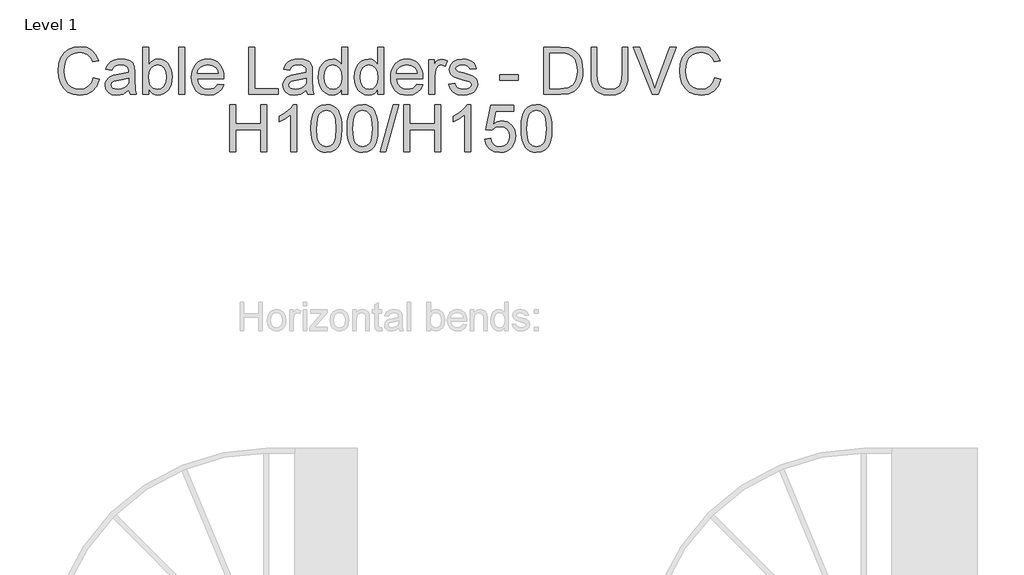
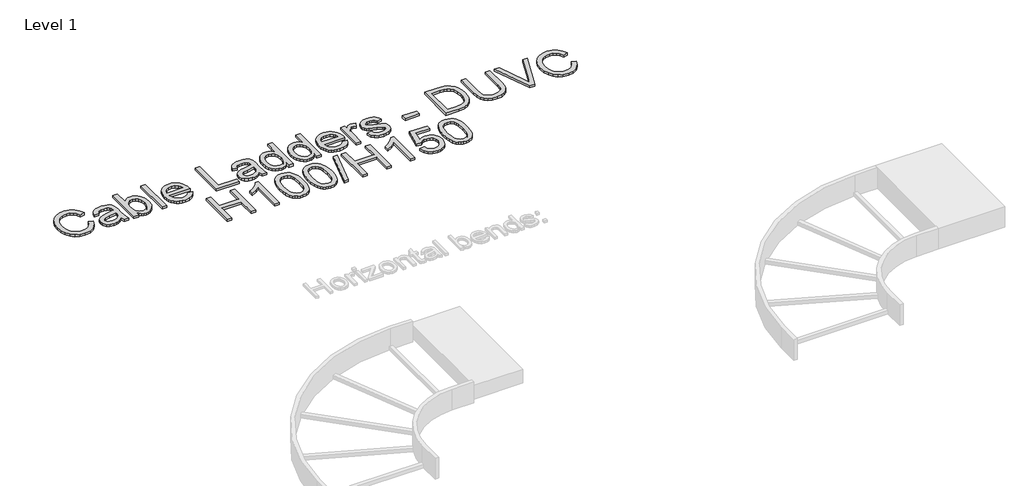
# One storey, part 102 of 106: 1 proxy.
"""IFC4 building model written with IfcOpenShell, lengths in millimetres."""

from ifc_helpers import new_model, si_unit, origin, origin_with_axes, place, context, project, spatial, polyline, outline, extrude, element, save

model = new_model("IFC4")

# Units and contexts
model_context = context("Model", 3, world=origin())
ifc_project = project(units=[si_unit("LENGTHUNIT", "METRE", prefix="MILLI")], contexts=[model_context])

# Site, building, storey
site = spatial("IfcSite", under=ifc_project)
building = spatial("IfcBuilding", under=site)
storey = spatial("IfcBuildingStorey", under=building, Name="Level 1", Elevation=0.0)

# Proxy
placement = place(None, origin())
element("IfcBuildingElementProxy", 1, Name="250mm Arial 3", ObjectType="250mm Arial 3", at=placement, inside=storey, context=model_context, shape_type="SweptSolid", body=[
    extrude(outline(polyline([(141884.0078281, 71620.7828675), (141915.4004251, 71612.6894636), (141900.9150715, 71576.1081977), (141878.1830299, 71549.3831036), (141848.3232746, 71533.0353474), (141812.4547801, 71527.5860954), (141776.0421268, 71531.7094394), (141747.1250691, 71544.0794715), (141724.9601789, 71564.266996), (141708.8040279, 71591.8428172), (141698.940192, 71624.262418), (141695.6522466, 71658.9812813), (141699.3693876, 71695.6008682), (141710.5208106, 71727.2233914), (141728.5240357, 71752.8448395), (141752.7965832, 71771.4612013), (141781.5833493, 71782.7965653), (141813.1292304, 71786.57502), (141847.5491896, 71781.6852551), (141876.0063948, 71767.0159606), (141897.6117978, 71743.4715129), (141911.4763505, 71711.9562886), (141880.0837535, 71704.4760214), (141869.2005778, 71727.3690114), (141854.3320139, 71743.072974), (141835.2941206, 71752.1550608), (141811.9029571, 71755.182423), (141784.9402725, 71751.8254998), (141762.7907107, 71741.7547302), (141745.9831021, 71726.0277749), (141735.0462769, 71705.7022947), (141729.0452019, 71682.7249984), (141727.0448435, 71659.042595), (141729.4130839, 71630.041231), (141736.5178049, 71604.9639417), (141748.6272539, 71584.768753), (141766.0096782, 71570.413691), (141786.8486604, 71561.837442), (141809.3277831, 71558.9786923), (141835.5317111, 71562.8721101), (141857.3670403, 71574.5523634), (141873.8527522, 71593.896825), (141884.0078281, 71620.7828675)])), origin_with_axes(), (0.0, 0.0, 1.0), 15.0),
    extrude(outline(polyline([(142072.3634097, 71555.0546177), (142057.3645542, 71542.1940763), (142041.9211746, 71533.7787756), (142025.6807173, 71529.1342654), (142008.2906289, 71527.5860954), (141982.0560441, 71531.3109006), (141962.7039183, 71542.4853162), (141950.7707461, 71559.4538732), (141946.793022, 71580.5611027), (141948.2952068, 71593.5749282), (141952.8017612, 71605.3931373), (141968.5900302, 71623.4193551), (141990.5709794, 71633.720051), (142017.7329334, 71638.4412032), (142072.1794687, 71649.2324084), (142072.3634097, 71656.2221663), (142070.202103, 71670.232339), (142063.7181828, 71679.398732), (142049.2175008, 71686.2045489), (142029.0146479, 71688.4731546), (142010.3139798, 71686.9633056), (141997.254169, 71682.4337585), (141988.348359, 71674.0567789), (141982.1096935, 71661.0046323), (141950.7170966, 71664.9287069), (141956.1663487, 71682.0965333), (141964.2980736, 71695.5855398), (141975.871028, 71705.9015641), (141991.6439686, 71713.5504439), (142010.9347807, 71718.2869246), (142033.0613499, 71719.8657515), (142054.2835425, 71718.4708656), (142071.1064795, 71714.2862079), (142083.7907442, 71707.993893), (142092.5969194, 71700.2760353), (142102.223165, 71678.9695364), (142103.7560066, 71651.5010141), (142103.7560066, 71612.4442089), (142105.3501619, 71557.9057031), (142111.6041558, 71531.51017), (142080.2115589, 71531.51017), (142072.3634097, 71555.0546177)]), holes=[polyline([(142072.3634097, 71617.8398115), (142021.7183217, 71608.213566), (141994.7096519, 71603.1245317), (141982.4775755, 71594.8471868), (141978.1856189, 71582.7683946), (141980.5232024, 71573.433389), (141987.535953, 71565.7845092), (141999.0705863, 71560.6801465), (142014.9738184, 71558.9786923), (142031.8350765, 71560.8564233), (142046.7342973, 71566.4896164), (142058.8130895, 71574.7899539), (142067.2130617, 71584.6691183), (142070.9378669, 71594.8471868), (142072.1794687, 71608.94933), (142072.3634097, 71617.8398115)])]), origin_with_axes(), (0.0, 0.0, 1.0), 15.0),
    extrude(outline(polyline([(142178.3134243, 71531.51017), (142146.9208274, 71531.51017), (142146.9208274, 71782.6509454), (142178.3134243, 71782.6509454), (142178.3134243, 71689.5154869), (142188.6371128, 71702.7937277), (142200.2943735, 71712.2781854), (142213.2852065, 71717.96886), (142227.6096116, 71719.8657515), (142243.781091, 71718.1566331), (142259.0635222, 71713.0292778), (142272.5831856, 71704.8055823), (142283.4663612, 71693.8074435), (142298.4575525, 71663.9170314), (142303.883812, 71626.4850384), (142298.2659473, 71584.5771478), (142291.2436165, 71567.6469118), (142281.4123534, 71553.3991487), (142269.6113888, 71542.1059379), (142256.6799535, 71534.0393587), (142242.6180474, 71529.1994112), (142227.4256706, 71527.5860954), (142212.6299167, 71529.6669279), (142199.5126243, 71535.9094255), (142188.0737935, 71546.3135882), (142178.3134243, 71560.8794159), (142178.3134243, 71531.51017)]), holes=[polyline([(142178.3134243, 71625.0135104), (142180.4594026, 71598.8325751), (142186.8973375, 71581.1129257), (142203.3447284, 71564.5122506), (142224.7278693, 71558.9786923), (142242.8460576, 71563.0560511), (142258.3277582, 71575.2881274), (142268.9503509, 71595.5982792), (142272.4912151, 71623.9098644), (142269.0959708, 71652.6353169), (142258.9102381, 71672.7155425), (142243.9113826, 71684.5337516), (142226.07677, 71688.4731546), (142207.9585817, 71684.3957958), (142192.4768811, 71672.1637195), (142181.8542885, 71652.2214496), (142178.3134243, 71625.0135104)])]), origin_with_axes(), (0.0, 0.0, 1.0), 15.0),
    extrude(outline(polyline([(142339.2004835, 71531.51017), (142339.2004835, 71782.6509454), (142370.5930804, 71782.6509454), (142370.5930804, 71531.51017), (142339.2004835, 71531.51017)])), origin_with_axes(), (0.0, 0.0, 1.0), 15.0),
    extrude(outline(polyline([(142546.8085561, 71586.4472146), (142577.5880164, 71582.52314), (142566.4979071, 71559.3312459), (142548.8012503, 71541.9948068), (142524.8965848, 71531.1882732), (142495.1824495, 71527.5860954), (142475.7038642, 71529.1400136), (142458.3482647, 71533.8017682), (142443.1156508, 71541.5713593), (142430.0060227, 71552.4487869), (142419.4639042, 71566.1313146), (142411.9338196, 71582.3162064), (142407.4157689, 71601.0034621), (142405.909752, 71622.1930818), (142407.4310973, 71644.101221), (142411.9951333, 71663.4111937), (142419.60186, 71680.1229997), (142430.2512773, 71694.2366392), (142443.3264166, 71705.4493758), (142458.210309, 71713.4584734), (142474.9029545, 71718.263932), (142493.4043532, 71719.8657515), (142511.3098596, 71718.2677641), (142527.5024156, 71713.4738018), (142541.982021, 71705.4838648), (142554.7486759, 71694.2979528), (142565.170083, 71680.2149702), (142572.6139452, 71663.533821), (142577.0802626, 71644.2545052), (142578.569035, 71622.3770228), (142578.385094, 71613.9157369), (142437.3023489, 71613.9157369), (142442.7362725, 71590.4172745), (142455.3592235, 71573.1421491), (142473.5770465, 71562.5195565), (142495.7955861, 71558.9786923), (142512.5035601, 71560.6188328), (142526.5750464, 71565.5392545), (142538.0100451, 71574.0465257), (142546.8085561, 71586.4472146)]), holes=[polyline([(142437.3023489, 71645.3083338), (142547.1764381, 71645.3083338), (142542.9304668, 71661.8936804), (142534.6071366, 71673.7578748), (142516.3050074, 71684.7943346), (142493.2817258, 71688.4731546), (142472.1208469, 71685.5377628), (142454.6234595, 71676.7315876), (142442.460361, 71663.0049906), (142437.3023489, 71645.3083338)])]), origin_with_axes(), (0.0, 0.0, 1.0), 15.0),
    extrude(outline(polyline([(142711.987572, 71531.51017), (142711.987572, 71782.6509454), (142743.3801689, 71782.6509454), (142743.3801689, 71562.9027669), (142868.9505566, 71562.9027669), (142868.9505566, 71531.51017), (142711.987572, 71531.51017)])), origin_with_axes(), (0.0, 0.0, 1.0), 15.0),
    extrude(outline(polyline([(143018.0653919, 71555.0546177), (143003.0665364, 71542.1940763), (142987.6231568, 71533.7787756), (142971.3826996, 71529.1342654), (142953.9926111, 71527.5860954), (142927.7580263, 71531.3109006), (142908.4059006, 71542.4853162), (142896.4727283, 71559.4538732), (142892.4950043, 71580.5611027), (142893.9971891, 71593.5749282), (142898.5037435, 71605.3931373), (142914.2920125, 71623.4193551), (142936.2729617, 71633.720051), (142963.4349157, 71638.4412032), (143017.881451, 71649.2324084), (143018.0653919, 71656.2221663), (143015.9040852, 71670.232339), (143009.4201651, 71679.398732), (142994.9194831, 71686.2045489), (142974.7166302, 71688.4731546), (142956.0159621, 71686.9633056), (142942.9561513, 71682.4337585), (142934.0503413, 71674.0567789), (142927.8116758, 71661.0046323), (142896.4190789, 71664.9287069), (142901.8683309, 71682.0965333), (142910.0000559, 71695.5855398), (142921.5730103, 71705.9015641), (142937.3459508, 71713.5504439), (142956.636763, 71718.2869246), (142978.7633321, 71719.8657515), (142999.9855247, 71718.4708656), (143016.8084618, 71714.2862079), (143029.4927264, 71707.993893), (143038.2989017, 71700.2760353), (143047.9251472, 71678.9695364), (143049.4579889, 71651.5010141), (143049.4579889, 71612.4442089), (143051.0521442, 71557.9057031), (143057.3061381, 71531.51017), (143025.9135412, 71531.51017), (143018.0653919, 71555.0546177)]), holes=[polyline([(143018.0653919, 71617.8398115), (142967.4203039, 71608.213566), (142940.4116341, 71603.1245317), (142928.1795578, 71594.8471868), (142923.8876012, 71582.7683946), (142926.2251847, 71573.433389), (142933.2379352, 71565.7845092), (142944.7725686, 71560.6801465), (142960.6758007, 71558.9786923), (142977.5370588, 71560.8564233), (142992.4362796, 71566.4896164), (143004.5150718, 71574.7899539), (143012.915044, 71584.6691183), (143016.6398492, 71594.8471868), (143017.881451, 71608.94933), (143018.0653919, 71617.8398115)])]), origin_with_axes(), (0.0, 0.0, 1.0), 15.0),
    extrude(outline(polyline([(143206.4209735, 71531.51017), (143206.4209735, 71561.1246706), (143197.0284863, 71546.4515439), (143185.6509692, 71535.9707392), (143172.2884221, 71529.6822563), (143156.9408451, 71527.5860954), (143136.6460217, 71530.6211218), (143118.067981, 71539.7262012), (143102.3410257, 71554.2652042), (143090.5994587, 71573.6020016), (143083.287804, 71596.9548441), (143080.8505858, 71623.5419824), (143083.0961988, 71649.7995598), (143089.8330378, 71673.5126201), (143101.0534387, 71693.3322626), (143116.7497372, 71707.9095867), (143135.7339809, 71716.8767103), (143156.8182178, 71719.8657515), (143172.1772911, 71717.7274374), (143185.7582681, 71711.3124951), (143197.2699088, 71701.479316), (143206.4209735, 71689.0862912), (143206.4209735, 71782.6509454), (143237.8135704, 71782.6509454), (143237.8135704, 71531.51017), (143206.4209735, 71531.51017)]), holes=[polyline([(143112.2431827, 71623.6646098), (143115.7840469, 71595.2687183), (143126.4066395, 71575.0735296), (143141.8423549, 71563.0024016), (143159.8225874, 71558.9786923), (143177.7951557, 71562.8184606), (143192.8399965, 71574.3377656), (143203.0257292, 71593.751205), (143206.4209735, 71621.2733768), (143202.9644156, 71651.3630583), (143192.5947418, 71672.2250331), (143177.1666907, 71684.4111242), (143158.5350004, 71688.4731546), (143140.3708269, 71684.5720726), (143125.4869345, 71672.8688266), (143115.5541207, 71652.7656084), (143112.2431827, 71623.6646098)])]), origin_with_axes(), (0.0, 0.0, 1.0), 15.0),
    extrude(outline(polyline([(143398.7006296, 71531.51017), (143398.7006296, 71561.1246706), (143389.3081424, 71546.4515439), (143377.9306253, 71535.9707392), (143364.5680783, 71529.6822563), (143349.2205013, 71527.5860954), (143328.9256779, 71530.6211218), (143310.3476371, 71539.7262012), (143294.6206818, 71554.2652042), (143282.8791148, 71573.6020016), (143275.5674602, 71596.9548441), (143273.1302419, 71623.5419824), (143275.3758549, 71649.7995598), (143282.112694, 71673.5126201), (143293.3330948, 71693.3322626), (143309.0293933, 71707.9095867), (143328.0136371, 71716.8767103), (143349.0978739, 71719.8657515), (143364.4569472, 71717.7274374), (143378.0379242, 71711.3124951), (143389.549565, 71701.479316), (143398.7006296, 71689.0862912), (143398.7006296, 71782.6509454), (143430.0932265, 71782.6509454), (143430.0932265, 71531.51017), (143398.7006296, 71531.51017)]), holes=[polyline([(143304.5228389, 71623.6646098), (143308.0637031, 71595.2687183), (143318.6862957, 71575.0735296), (143334.1220111, 71563.0024016), (143352.1022436, 71558.9786923), (143370.0748119, 71562.8184606), (143385.1196526, 71574.3377656), (143395.3053854, 71593.751205), (143398.7006296, 71621.2733768), (143395.2440717, 71651.3630583), (143384.874398, 71672.2250331), (143369.4463468, 71684.4111242), (143350.8146566, 71688.4731546), (143332.6504831, 71684.5720726), (143317.7665907, 71672.8688266), (143307.8337768, 71652.7656084), (143304.5228389, 71623.6646098)])]), origin_with_axes(), (0.0, 0.0, 1.0), 15.0),
    extrude(outline(polyline([(143606.3087022, 71586.4472146), (143637.0881625, 71582.52314), (143625.9980532, 71559.3312459), (143608.3013964, 71541.9948068), (143584.3967309, 71531.1882732), (143554.6825956, 71527.5860954), (143535.2040104, 71529.1400136), (143517.8484108, 71533.8017682), (143502.6157969, 71541.5713593), (143489.5061688, 71552.4487869), (143478.9640503, 71566.1313146), (143471.4339658, 71582.3162064), (143466.915915, 71601.0034621), (143465.4098981, 71622.1930818), (143466.9312434, 71644.101221), (143471.4952794, 71663.4111937), (143479.1020061, 71680.1229997), (143489.7514234, 71694.2366392), (143502.8265627, 71705.4493758), (143517.7104551, 71713.4584734), (143534.4031006, 71718.263932), (143552.9044993, 71719.8657515), (143570.8100058, 71718.2677641), (143587.0025617, 71713.4738018), (143601.4821671, 71705.4838648), (143614.248822, 71694.2979528), (143624.6702291, 71680.2149702), (143632.1140914, 71663.533821), (143636.5804087, 71644.2545052), (143638.0691812, 71622.3770228), (143637.8852402, 71613.9157369), (143496.802495, 71613.9157369), (143502.2364186, 71590.4172745), (143514.8593696, 71573.1421491), (143533.0771926, 71562.5195565), (143555.2957322, 71558.9786923), (143572.0037062, 71560.6188328), (143586.0751925, 71565.5392545), (143597.5101912, 71574.0465257), (143606.3087022, 71586.4472146)]), holes=[polyline([(143496.802495, 71645.3083338), (143606.6765842, 71645.3083338), (143602.4306129, 71661.8936804), (143594.1072827, 71673.7578748), (143575.8051535, 71684.7943346), (143552.7818719, 71688.4731546), (143531.620993, 71685.5377628), (143514.1236056, 71676.7315876), (143501.9605071, 71663.0049906), (143496.802495, 71645.3083338)])]), origin_with_axes(), (0.0, 0.0, 1.0), 15.0),
    extrude(outline(polyline([(143669.4617781, 71531.51017), (143669.4617781, 71715.9416769), (143696.9303004, 71715.9416769), (143696.9303004, 71688.6570956), (143707.0777121, 71704.4760214), (143716.4280461, 71713.7956986), (143736.0484192, 71719.8657515), (143751.683404, 71717.4438617), (143767.5636435, 71710.1781923), (143757.0790066, 71682.0352197), (143735.0060869, 71688.4731546), (143725.6327602, 71686.9249845), (143717.2557806, 71682.2804743), (143705.9434093, 71665.1126479), (143700.854375, 71628.4470757), (143700.854375, 71531.51017), (143669.4617781, 71531.51017)])), origin_with_axes(), (0.0, 0.0, 1.0), 15.0),
    extrude(outline(polyline([(143775.4117927, 71586.4472146), (143806.8043896, 71590.3712892), (143811.7554681, 71576.9435964), (143821.3357284, 71567.0720962), (143835.6064841, 71561.0020433), (143854.629049, 71558.9786923), (143873.4216876, 71560.8334307), (143886.6347826, 71566.3976459), (143894.452275, 71574.4603929), (143897.0581058, 71583.810727), (143894.4369465, 71591.8121604), (143886.5734689, 71597.9128701), (143854.261167, 71606.8646653), (143806.9883306, 71622.2237386), (143795.0245016, 71629.9415963), (143786.356282, 71640.1579859), (143781.090971, 71652.2214496), (143779.3358673, 71665.4805299), (143784.9767246, 71688.8716934), (143800.3664547, 71706.744627), (143820.3240529, 71716.0336474), (143847.3327227, 71719.8657515), (143867.7655019, 71718.3252457), (143885.5311366, 71713.7037281), (143899.8172207, 71706.4533871), (143909.8113483, 71697.026411), (143916.4332242, 71684.7253568), (143920.6025534, 71668.8527815), (143889.2099565, 71664.9287069), (143885.2475609, 71674.8078713), (143877.4070758, 71682.2498175), (143865.6118594, 71686.9173203), (143849.7852694, 71688.4731546), (143831.7590516, 71686.9862982), (143819.7415731, 71682.525729), (143812.9817414, 71676.0877941), (143810.7284642, 71668.6688405), (143814.4685978, 71659.5331043), (143826.179508, 71652.6046601), (143853.2188347, 71645.9214705), (143899.2960546, 71631.144877), (143911.4668172, 71624.078477), (143920.6945239, 71614.4062462), (143926.511658, 71602.0975278), (143928.4507027, 71587.1216649), (143926.1744328, 71571.6399643), (143919.3456233, 71557.0779686), (143908.2248572, 71544.577645), (143893.0727175, 71535.2809604), (143874.7705882, 71529.5098116), (143854.1998533, 71527.5860954), (143822.5466733, 71531.2955721), (143799.4467497, 71542.4240025), (143784.0263627, 71560.8487591), (143775.4117927, 71586.4472146)])), origin_with_axes(), (0.0, 0.0, 1.0), 15.0),
    extrude(outline(polyline([(144046.1729411, 71606.0675877), (144046.1729411, 71637.4601846), (144144.2748065, 71637.4601846), (144144.2748065, 71606.0675877), (144046.1729411, 71606.0675877)])), origin_with_axes(), (0.0, 0.0, 1.0), 15.0),
    extrude(outline(polyline([(144281.617418, 71531.51017), (144281.617418, 71782.6509454), (144368.2536279, 71782.6509454), (144413.0739177, 71779.0334391), (144433.0928296, 71772.0590096), (144449.9847445, 71761.068535), (144467.3518404, 71741.9386712), (144479.7218725, 71718.1489689), (144487.1254976, 71690.1592804), (144489.5933727, 71658.4294583), (144487.9225753, 71631.474438), (144482.9101831, 71607.7537135), (144475.2766317, 71587.5585248), (144465.7423566, 71571.1801118), (144442.8110456, 71548.4020849), (144412.7980062, 71535.8021266), (144372.4229572, 71531.51017), (144281.617418, 71531.51017)]), holes=[polyline([(144313.010015, 71562.9027669), (144368.5601962, 71562.9027669), (144408.965902, 71567.4399782), (144432.2650951, 71580.2545343), (144443.1712634, 71593.8431755), (144451.364302, 71611.4325334), (144456.4916573, 71633.0992501), (144458.2007757, 71658.9199676), (144454.8515167, 71693.1329932), (144444.8037397, 71718.3942235), (144429.9581684, 71735.745991), (144412.2155263, 71746.2306278), (144394.1586517, 71750.0014183), (144367.7018049, 71751.2583484), (144313.010015, 71751.2583484), (144313.010015, 71562.9027669)])]), origin_with_axes(), (0.0, 0.0, 1.0), 15.0),
    extrude(outline(polyline([(144697.5693273, 71782.6509454), (144728.9619242, 71782.6509454), (144728.9619242, 71637.7667529), (144726.8312743, 71603.8373031), (144720.4393246, 71577.7100172), (144708.4984882, 71557.5531496), (144689.721178, 71541.5349543), (144664.0614089, 71531.0733101), (144631.4731955, 71527.5860954), (144599.5977534, 71530.6211218), (144574.114261, 71539.7262012), (144555.0150541, 71554.587101), (144542.2924685, 71574.8895886), (144535.1417622, 71602.1205204), (144532.7581934, 71637.7667529), (144532.7581934, 71782.6509454), (144564.1507903, 71782.6509454), (144564.1507903, 71638.8703989), (144565.6989604, 71610.6584484), (144570.3434706, 71591.0150827), (144578.7587712, 71577.4111131), (144591.6193127, 71567.3173508), (144608.3886003, 71561.0633569), (144628.5301395, 71558.9786923), (144660.459231, 71563.1020363), (144681.6890878, 71575.4720684), (144688.6366926, 71585.6194801), (144693.5992674, 71599.5683391), (144697.5693273, 71638.8703989), (144697.5693273, 71782.6509454)])), origin_with_axes(), (0.0, 0.0, 1.0), 15.0),
    extrude(outline(polyline([(144858.0271908, 71531.51017), (144758.1472291, 71782.6509454), (144791.747118, 71782.6509454), (144858.6403275, 71601.7143174), (144872.1906476, 71560.9407296), (144885.5570268, 71601.7143174), (144952.6341773, 71782.6509454), (144986.1727525, 71782.6509454), (144890.4008064, 71531.51017), (144858.0271908, 71531.51017)])), origin_with_axes(), (0.0, 0.0, 1.0), 15.0),
    extrude(outline(polyline([(145192.0027288, 71620.7828675), (145223.3953257, 71612.6894636), (145208.9099721, 71576.1081977), (145186.1779305, 71549.3831036), (145156.3181752, 71533.0353474), (145120.4496807, 71527.5860954), (145084.0370274, 71531.7094394), (145055.1199697, 71544.0794715), (145032.9550795, 71564.266996), (145016.7989286, 71591.8428172), (145006.9350926, 71624.262418), (145003.6471472, 71658.9812813), (145007.3642882, 71695.6008682), (145018.5157112, 71727.2233914), (145036.5189364, 71752.8448395), (145060.7914838, 71771.4612013), (145089.57825, 71782.7965653), (145121.124131, 71786.57502), (145155.5440902, 71781.6852551), (145184.0012954, 71767.0159606), (145205.6066984, 71743.4715129), (145219.4712511, 71711.9562886), (145188.0786542, 71704.4760214), (145177.1954785, 71727.3690114), (145162.3269145, 71743.072974), (145143.2890213, 71752.1550608), (145119.8978577, 71755.182423), (145092.9351732, 71751.8254998), (145070.7856114, 71741.7547302), (145053.9780027, 71726.0277749), (145043.0411776, 71705.7022947), (145037.0401025, 71682.7249984), (145035.0397442, 71659.042595), (145037.4079845, 71630.041231), (145044.5127055, 71604.9639417), (145056.6221546, 71584.768753), (145074.0045788, 71570.413691), (145094.843561, 71561.837442), (145117.3226838, 71558.9786923), (145143.5266117, 71562.8721101), (145165.361941, 71574.5523634), (145181.8476529, 71593.896825), (145192.0027288, 71620.7828675)])), origin_with_axes(), (0.0, 0.0, 1.0), 15.0),
    extrude(outline(polyline([(142609.961632, 71226.5731254), (142609.961632, 71477.7139007), (142641.3542289, 71477.7139007), (142641.3542289, 71375.6879607), (142774.7727658, 71375.6879607), (142774.7727658, 71477.7139007), (142806.1653627, 71477.7139007), (142806.1653627, 71226.5731254), (142774.7727658, 71226.5731254), (142774.7727658, 71344.2953638), (142641.3542289, 71344.2953638), (142641.3542289, 71226.5731254), (142609.961632, 71226.5731254)])), origin_with_axes(), (0.0, 0.0, 1.0), 15.0),
    extrude(outline(polyline([(142967.0524219, 71226.5731254), (142935.659825, 71226.5731254), (142935.659825, 71422.2863468), (142905.9226971, 71401.1024752), (142872.8746312, 71385.2528926), (142872.8746312, 71414.9287069), (142897.5303891, 71428.3410713), (142918.8905374, 71444.2979528), (142935.7288029, 71461.2665099), (142946.8189122, 71477.7139007), (142967.0524219, 71477.7139007), (142967.0524219, 71226.5731254)])), origin_with_axes(), (0.0, 0.0, 1.0), 15.0),
    extrude(outline(polyline([(143041.6098396, 71350.1201621), (143043.9167663, 71390.3189343), (143050.8375464, 71422.3783173), (143062.3032019, 71446.7888205), (143078.244755, 71464.0409532), (143098.7771688, 71474.2956639), (143124.0154066, 71477.7139007), (143143.3598681, 71475.6905498), (143160.6809787, 71469.6204968), (143175.1663323, 71459.7413324), (143186.0035227, 71446.290647), (143200.7188026, 71409.1345655), (143204.9954307, 71383.4211468), (143206.4209735, 71350.1201621), (143204.1370394, 71310.1513161), (143197.2852373, 71278.1685752), (143185.8885596, 71253.7350793), (143169.9699991, 71236.4139687), (143149.3916, 71226.0902802), (143124.0154066, 71222.6490507), (143106.7249528, 71224.1435714), (143091.3965363, 71228.6271332), (143078.0301572, 71236.0997362), (143066.6258153, 71246.5613804), (143055.681326, 71265.4728142), (143047.8638336, 71289.0364225), (143043.1733381, 71317.2522051), (143041.6098396, 71350.1201621)]), holes=[polyline([(143073.0024366, 71350.1814757), (143076.6812565, 71300.8009821), (143081.2797815, 71283.9109832), (143087.7177164, 71272.2211496), (143104.1497788, 71258.5865232), (143124.0154066, 71254.0416477), (143143.8810343, 71258.6018516), (143160.3130967, 71272.2824633), (143166.7510317, 71283.9914574), (143171.3495566, 71300.8776242), (143175.0283766, 71350.1814757), (143171.4721839, 71398.4506592), (143167.0269432, 71415.2850926), (143160.8036061, 71427.2527537), (143144.4022005, 71441.5541663), (143123.6475246, 71446.3213038), (143103.9964947, 71442.1213177), (143088.2082257, 71429.5213594), (143081.5556929, 71416.4922054), (143076.8038838, 71398.9258401), (143073.0024366, 71350.1814757)])]), origin_with_axes(), (0.0, 0.0, 1.0), 15.0),
    extrude(outline(polyline([(143233.8894958, 71350.1201621), (143236.1964225, 71390.3189343), (143243.1172025, 71422.3783173), (143254.582858, 71446.7888205), (143270.5244111, 71464.0409532), (143291.056825, 71474.2956639), (143316.2950627, 71477.7139007), (143335.6395243, 71475.6905498), (143352.9606349, 71469.6204968), (143367.4459885, 71459.7413324), (143378.2831789, 71446.290647), (143392.9984587, 71409.1345655), (143397.2750869, 71383.4211468), (143398.7006296, 71350.1201621), (143396.4166956, 71310.1513161), (143389.5648934, 71278.1685752), (143378.1682158, 71253.7350793), (143362.2496553, 71236.4139687), (143341.6712562, 71226.0902802), (143316.2950627, 71222.6490507), (143299.0046089, 71224.1435714), (143283.6761925, 71228.6271332), (143270.3098133, 71236.0997362), (143258.9054715, 71246.5613804), (143247.9609821, 71265.4728142), (143240.1434897, 71289.0364225), (143235.4529943, 71317.2522051), (143233.8894958, 71350.1201621)]), holes=[polyline([(143265.2820927, 71350.1814757), (143268.9609127, 71300.8009821), (143273.5594376, 71283.9109832), (143279.9973725, 71272.2211496), (143296.429435, 71258.5865232), (143316.2950627, 71254.0416477), (143336.1606904, 71258.6018516), (143352.5927529, 71272.2824633), (143359.0306878, 71283.9914574), (143363.6292128, 71300.8776242), (143367.3080327, 71350.1814757), (143363.7518401, 71398.4506592), (143359.3065993, 71415.2850926), (143353.0832622, 71427.2527537), (143336.6818566, 71441.5541663), (143315.9271807, 71446.3213038), (143296.2761508, 71442.1213177), (143280.4878818, 71429.5213594), (143273.8353491, 71416.4922054), (143269.08354, 71398.9258401), (143265.2820927, 71350.1814757)])]), origin_with_axes(), (0.0, 0.0, 1.0), 15.0),
    extrude(outline(polyline([(143410.4728535, 71226.5731254), (143481.1061965, 71477.7139007), (143509.5557375, 71477.7139007), (143438.8610808, 71226.5731254), (143410.4728535, 71226.5731254)])), origin_with_axes(), (0.0, 0.0, 1.0), 15.0),
    extrude(outline(polyline([(143536.0432412, 71226.5731254), (143536.0432412, 71477.7139007), (143567.4358381, 71477.7139007), (143567.4358381, 71375.6879607), (143700.854375, 71375.6879607), (143700.854375, 71477.7139007), (143732.2469719, 71477.7139007), (143732.2469719, 71226.5731254), (143700.854375, 71226.5731254), (143700.854375, 71344.2953638), (143567.4358381, 71344.2953638), (143567.4358381, 71226.5731254), (143536.0432412, 71226.5731254)])), origin_with_axes(), (0.0, 0.0, 1.0), 15.0),
    extrude(outline(polyline([(143893.1340311, 71226.5731254), (143861.7414342, 71226.5731254), (143861.7414342, 71422.2863468), (143832.0043063, 71401.1024752), (143798.9562404, 71385.2528926), (143798.9562404, 71414.9287069), (143823.6119983, 71428.3410713), (143844.9721466, 71444.2979528), (143861.8104121, 71461.2665099), (143872.9005214, 71477.7139007), (143893.1340311, 71477.7139007), (143893.1340311, 71226.5731254)])), origin_with_axes(), (0.0, 0.0, 1.0), 15.0),
    extrude(outline(polyline([(143967.6914488, 71293.2823938), (143999.0840458, 71297.2064684), (144004.8475303, 71278.3601804), (144014.9029715, 71264.8635097), (144029.2043841, 71256.7471132), (144047.7057828, 71254.0416477), (144070.2078982, 71257.8047739), (144087.0691563, 71269.0941526), (144097.5997784, 71286.6068685), (144101.1099857, 71309.0400059), (144097.8220404, 71330.1625638), (144087.9582044, 71346.3187148), (144071.4418357, 71356.5734254), (144048.1962921, 71359.9916623), (144032.9675103, 71358.6274332), (144020.6357993, 71354.534746), (144003.0081204, 71340.3712892), (143971.6155234, 71344.2953638), (143999.0840458, 71473.7898261), (144120.7303588, 71473.7898261), (144120.7303588, 71442.3972292), (144024.4679034, 71442.3972292), (144010.9788969, 71373.2354141), (144033.4043702, 71386.8470479), (144056.9028327, 71391.3842592), (144086.2414218, 71385.7587304), (144110.613604, 71368.8821438), (144127.030338, 71343.161061), (144132.5025827, 71311.0020433), (144127.582161, 71279.6094463), (144112.8208959, 71252.7540607), (144099.7764135, 71239.5831188), (144084.555296, 71230.1753032), (144067.1575433, 71224.5306139), (144047.5831554, 71222.6490507), (144016.7500457, 71227.4851661), (143992.1862583, 71241.9935123), (143975.3479929, 71264.4879635), (143967.6914488, 71293.2823938)])), origin_with_axes(), (0.0, 0.0, 1.0), 15.0),
    extrude(outline(polyline([(144159.971105, 71350.1201621), (144162.2780317, 71390.3189343), (144169.1988117, 71422.3783173), (144180.6644672, 71446.7888205), (144196.6060203, 71464.0409532), (144217.1384342, 71474.2956639), (144242.3766719, 71477.7139007), (144261.7211335, 71475.6905498), (144279.0422441, 71469.6204968), (144293.5275976, 71459.7413324), (144304.3647881, 71446.290647), (144319.0800679, 71409.1345655), (144323.3566961, 71383.4211468), (144324.7822388, 71350.1201621), (144322.4983048, 71310.1513161), (144315.6465026, 71278.1685752), (144304.249825, 71253.7350793), (144288.3312645, 71236.4139687), (144267.7528654, 71226.0902802), (144242.3766719, 71222.6490507), (144225.0862181, 71224.1435714), (144209.7578017, 71228.6271332), (144196.3914225, 71236.0997362), (144184.9870806, 71246.5613804), (144174.0425913, 71265.4728142), (144166.2250989, 71289.0364225), (144161.5346035, 71317.2522051), (144159.971105, 71350.1201621)]), holes=[polyline([(144191.3637019, 71350.1814757), (144195.0425218, 71300.8009821), (144199.6410468, 71283.9109832), (144206.0789817, 71272.2211496), (144222.5110442, 71258.5865232), (144242.3766719, 71254.0416477), (144262.2422996, 71258.6018516), (144278.6743621, 71272.2824633), (144285.112297, 71283.9914574), (144289.7108219, 71300.8776242), (144293.3896419, 71350.1814757), (144289.8334493, 71398.4506592), (144285.3882085, 71415.2850926), (144279.1648714, 71427.2527537), (144262.7634658, 71441.5541663), (144242.0087899, 71446.3213038), (144222.35776, 71442.1213177), (144206.569491, 71429.5213594), (144199.9169583, 71416.4922054), (144195.1651492, 71398.9258401), (144191.3637019, 71350.1814757)])]), origin_with_axes(), (0.0, 0.0, 1.0), 15.0),
])

save(model, "model.ifc")
